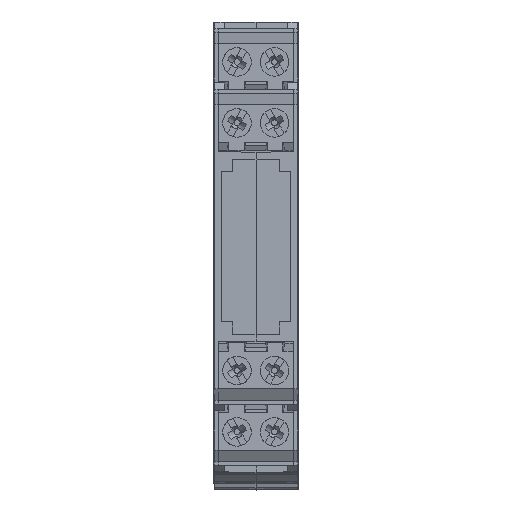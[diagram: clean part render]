
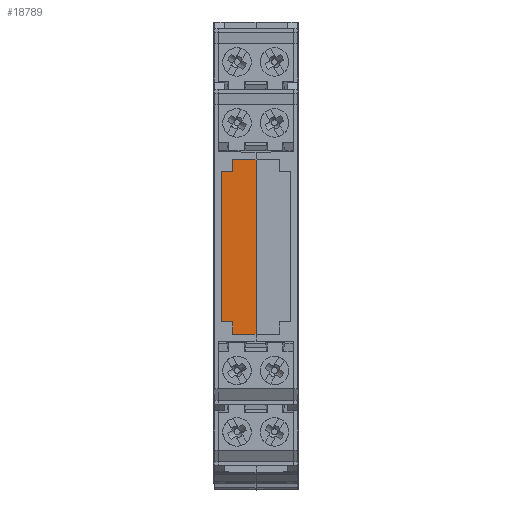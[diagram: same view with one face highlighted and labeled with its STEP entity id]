
A CAD part, top view. The second image highlights one B-rep face of the part: STEP entity #18789.
In plain terms, the highlighted planar face has unit normal (0, 0, 1).
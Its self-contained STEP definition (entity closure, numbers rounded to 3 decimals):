
#47 = ORIENTED_EDGE ( 'NONE', *, *, #7009, .T. ) ;
#235 = CARTESIAN_POINT ( 'NONE',  ( 2.5, 10.013, 29.956 ) ) ;
#982 = CARTESIAN_POINT ( 'NONE',  ( 5.63, 11.69, 29.956 ) ) ;
#1159 = LINE ( 'NONE', #8643, #7735 ) ;
#1498 = VERTEX_POINT ( 'NONE', #17079 ) ;
#1624 = PLANE ( 'NONE',  #19000 ) ;
#1698 = VECTOR ( 'NONE', #19421, 1000. ) ;
#2001 = VECTOR ( 'NONE', #8975, 1000. ) ;
#3569 = EDGE_LOOP ( 'NONE', ( #24213, #9630, #19485, #19862, #17090, #9533, #8646, #47 ) ) ;
#3630 = CARTESIAN_POINT ( 'NONE',  ( 94.265, -12.606, 29.956 ) ) ;
#3721 = VECTOR ( 'NONE', #12566, 1000. ) ;
#3875 = FACE_OUTER_BOUND ( 'NONE', #3569, .T. ) ;
#3999 = EDGE_CURVE ( 'NONE', #18500, #4112, #9072, .T. ) ;
#4087 = VERTEX_POINT ( 'NONE', #982 ) ;
#4112 = VERTEX_POINT ( 'NONE', #20568 ) ;
#5059 = VECTOR ( 'NONE', #15869, 1000. ) ;
#5286 = LINE ( 'NONE', #8776, #17561 ) ;
#7009 = EDGE_CURVE ( 'NONE', #4087, #17847, #10348, .T. ) ;
#7214 = VERTEX_POINT ( 'NONE', #235 ) ;
#7618 = CARTESIAN_POINT ( 'NONE',  ( 1., 10., 29.956 ) ) ;
#7735 = VECTOR ( 'NONE', #23904, 1000. ) ;
#8247 = EDGE_CURVE ( 'NONE', #18149, #4087, #1159, .T. ) ;
#8305 = LINE ( 'NONE', #21795, #1698 ) ;
#8643 = CARTESIAN_POINT ( 'NONE',  ( 5.63, -12.606, 29.956 ) ) ;
#8646 = ORIENTED_EDGE ( 'NONE', *, *, #8247, .T. ) ;
#8776 = CARTESIAN_POINT ( 'NONE',  ( 2.5, 10.45, 29.956 ) ) ;
#8815 = EDGE_CURVE ( 'NONE', #9790, #1498, #8305, .T. ) ;
#8975 = DIRECTION ( 'NONE',  ( -1., -0.009, 0. ) ) ;
#9072 = LINE ( 'NONE', #22448, #3721 ) ;
#9096 = CARTESIAN_POINT ( 'NONE',  ( 1., 11.65, 29.956 ) ) ;
#9240 = DIRECTION ( 'NONE',  ( -1., -0.009, 0. ) ) ;
#9533 = ORIENTED_EDGE ( 'NONE', *, *, #10123, .F. ) ;
#9630 = ORIENTED_EDGE ( 'NONE', *, *, #17623, .T. ) ;
#9756 = CARTESIAN_POINT ( 'NONE',  ( 1., -10., 29.956 ) ) ;
#9790 = VERTEX_POINT ( 'NONE', #15187 ) ;
#10123 = EDGE_CURVE ( 'NONE', #18149, #18500, #10786, .T. ) ;
#10348 = LINE ( 'NONE', #9096, #2001 ) ;
#10786 = LINE ( 'NONE', #18283, #18306 ) ;
#12566 = DIRECTION ( 'NONE',  ( 0., 1., 0. ) ) ;
#12822 = EDGE_CURVE ( 'NONE', #7214, #17847, #5286, .T. ) ;
#12902 = DIRECTION ( 'NONE',  ( -1., 0.009, 0. ) ) ;
#13652 = CARTESIAN_POINT ( 'NONE',  ( 2.5, -11.663, 29.956 ) ) ;
#13828 = VECTOR ( 'NONE', #9240, 1000. ) ;
#14753 = DIRECTION ( 'NONE',  ( 0., 1., 0. ) ) ;
#14971 = DIRECTION ( 'NONE',  ( 0., 0., -1. ) ) ;
#15187 = CARTESIAN_POINT ( 'NONE',  ( 1., 10., 29.956 ) ) ;
#15377 = LINE ( 'NONE', #9756, #5059 ) ;
#15869 = DIRECTION ( 'NONE',  ( -1., 0.009, 0. ) ) ;
#17079 = CARTESIAN_POINT ( 'NONE',  ( 1., -10., 29.956 ) ) ;
#17090 = ORIENTED_EDGE ( 'NONE', *, *, #3999, .F. ) ;
#17298 = EDGE_CURVE ( 'NONE', #4112, #1498, #15377, .T. ) ;
#17561 = VECTOR ( 'NONE', #14753, 1000. ) ;
#17623 = EDGE_CURVE ( 'NONE', #7214, #9790, #18718, .T. ) ;
#17847 = VERTEX_POINT ( 'NONE', #23983 ) ;
#18149 = VERTEX_POINT ( 'NONE', #21446 ) ;
#18283 = CARTESIAN_POINT ( 'NONE',  ( 1., -11.65, 29.956 ) ) ;
#18306 = VECTOR ( 'NONE', #12902, 1000. ) ;
#18500 = VERTEX_POINT ( 'NONE', #13652 ) ;
#18718 = LINE ( 'NONE', #7618, #13828 ) ;
#18789 = ADVANCED_FACE ( 'NONE', ( #3875 ), #1624, .F. ) ;
#19000 = AXIS2_PLACEMENT_3D ( 'NONE', #3630, #14971, #22365 ) ;
#19421 = DIRECTION ( 'NONE',  ( 0., -1., 0. ) ) ;
#19485 = ORIENTED_EDGE ( 'NONE', *, *, #8815, .T. ) ;
#19862 = ORIENTED_EDGE ( 'NONE', *, *, #17298, .F. ) ;
#20568 = CARTESIAN_POINT ( 'NONE',  ( 2.5, -10.013, 29.956 ) ) ;
#21446 = CARTESIAN_POINT ( 'NONE',  ( 5.63, -11.69, 29.956 ) ) ;
#21795 = CARTESIAN_POINT ( 'NONE',  ( 1., -12.606, 29.956 ) ) ;
#22365 = DIRECTION ( 'NONE',  ( -1., 0., 0. ) ) ;
#22448 = CARTESIAN_POINT ( 'NONE',  ( 2.5, -10.45, 29.956 ) ) ;
#23904 = DIRECTION ( 'NONE',  ( 0., 1., 0. ) ) ;
#23983 = CARTESIAN_POINT ( 'NONE',  ( 2.5, 11.663, 29.956 ) ) ;
#24213 = ORIENTED_EDGE ( 'NONE', *, *, #12822, .F. ) ;
